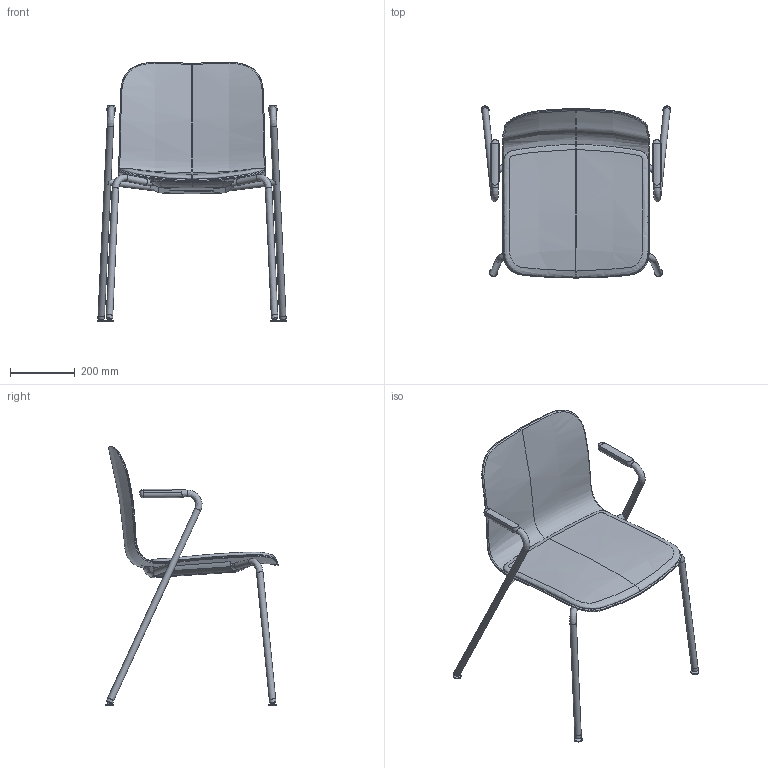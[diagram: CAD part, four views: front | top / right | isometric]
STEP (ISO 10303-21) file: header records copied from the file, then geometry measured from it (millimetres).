
FILE_DESCRIPTION(/* description */ (''),/* implementation_level */ '2;1');
FILE_NAME(/* name */ 'Lambda LA4002-091',/* time_stamp */ '2024-03-04T14:39:21+01:00',/* author */ (''),/* organization */ (''),/* preprocessor_version */ 'ST-DEVELOPER v16.5',/* originating_system */ 'Rhino 7.35',/* authorisation */ '');
FILE_SCHEMA (('CONFIG_CONTROL_DESIGN'));
Length unit declared in the file: millimetre
Products named in the file (1): Document
Bounding box: 583.67 x 530.54 x 797.34 mm (x, y, z)
Volume: 170440.9 mm3; surface area: 1304166.4 mm2
Topology: 10 solids, 27 shells, 934 faces, 2453 edges, 1626 vertices
Faces by surface type: plane 438, bspline 374, cylinder 122
Full cylindrical faces by diameter (mm): 20 x20, 22 x4, 24.5 x4
Entity records: 77094 total; most frequent: CARTESIAN_POINT 60813, ORIENTED_EDGE 4810, EDGE_CURVE 2440, B_SPLINE_CURVE_WITH_KNOTS 2275, VERTEX_POINT 1620, EDGE_LOOP 1019, ADVANCED_FACE 934, FACE_OUTER_BOUND 934
